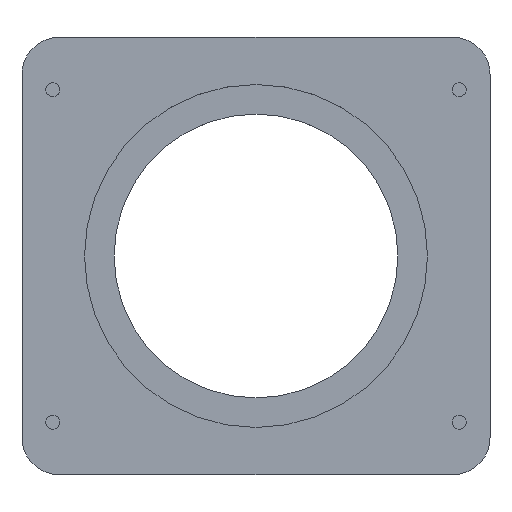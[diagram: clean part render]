
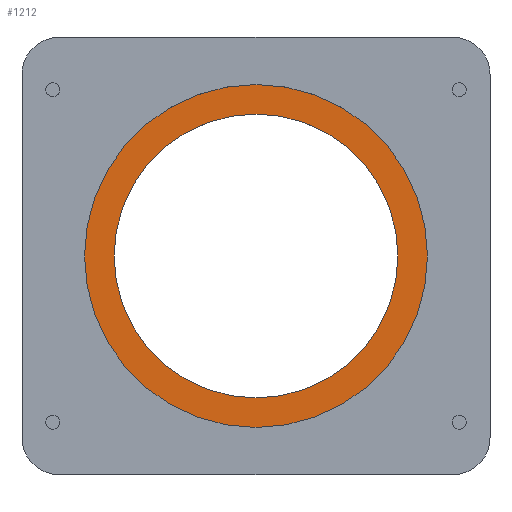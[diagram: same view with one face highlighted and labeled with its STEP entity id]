
A CAD part, top view. The second image highlights one B-rep face of the part: STEP entity #1212.
In plain terms, the highlighted planar face has unit normal (0, 0, 1).
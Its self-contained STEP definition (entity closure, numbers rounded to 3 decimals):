
#357 = CYLINDRICAL_SURFACE('',#358,23.05);
#358 = AXIS2_PLACEMENT_3D('',#359,#360,#361);
#359 = CARTESIAN_POINT('',(0.,0.,-0.1));
#360 = DIRECTION('',(-0.,-0.,-1.));
#361 = DIRECTION('',(1.,0.,0.));
#687 = CYLINDRICAL_SURFACE('',#688,27.85);
#688 = AXIS2_PLACEMENT_3D('',#689,#690,#691);
#689 = CARTESIAN_POINT('',(0.,0.,2.4));
#690 = DIRECTION('',(-0.,-0.,-1.));
#691 = DIRECTION('',(1.,0.,0.));
#888 = VERTEX_POINT('',#889);
#889 = CARTESIAN_POINT('',(23.05,0.,2.4));
#912 = EDGE_CURVE('',#888,#888,#913,.T.);
#913 = SURFACE_CURVE('',#914,(#919,#926),.PCURVE_S1.);
#914 = CIRCLE('',#915,23.05);
#915 = AXIS2_PLACEMENT_3D('',#916,#917,#918);
#916 = CARTESIAN_POINT('',(0.,0.,2.4));
#917 = DIRECTION('',(0.,0.,-1.));
#918 = DIRECTION('',(1.,0.,0.));
#919 = PCURVE('',#357,#920);
#920 = DEFINITIONAL_REPRESENTATION('',(#921),#925);
#921 = LINE('',#922,#923);
#922 = CARTESIAN_POINT('',(-6.283,-2.5));
#923 = VECTOR('',#924,1.);
#924 = DIRECTION('',(1.,-0.));
#925 = ( GEOMETRIC_REPRESENTATION_CONTEXT(2) 
PARAMETRIC_REPRESENTATION_CONTEXT() REPRESENTATION_CONTEXT('2D SPACE',''
  ) );
#926 = PCURVE('',#927,#932);
#927 = PLANE('',#928);
#928 = AXIS2_PLACEMENT_3D('',#929,#930,#931);
#929 = CARTESIAN_POINT('',(0.,0.,2.4));
#930 = DIRECTION('',(0.,0.,1.));
#931 = DIRECTION('',(1.,0.,-0.));
#932 = DEFINITIONAL_REPRESENTATION('',(#933),#941);
#933 = ( BOUNDED_CURVE() B_SPLINE_CURVE(2,(#934,#935,#936,#937,#938,#939
,#940),.UNSPECIFIED.,.T.,.F.) B_SPLINE_CURVE_WITH_KNOTS((1,2,2,2,2,1),(
    -2.094,0.,2.094,4.189,6.283,
8.378),.UNSPECIFIED.) CURVE() GEOMETRIC_REPRESENTATION_ITEM() 
RATIONAL_B_SPLINE_CURVE((1.,0.5,1.,0.5,1.,0.5,1.)) REPRESENTATION_ITEM(
  '') );
#934 = CARTESIAN_POINT('',(23.05,0.));
#935 = CARTESIAN_POINT('',(23.05,-39.924));
#936 = CARTESIAN_POINT('',(-11.525,-19.962));
#937 = CARTESIAN_POINT('',(-46.1,0.));
#938 = CARTESIAN_POINT('',(-11.525,19.962));
#939 = CARTESIAN_POINT('',(23.05,39.924));
#940 = CARTESIAN_POINT('',(23.05,0.));
#941 = ( GEOMETRIC_REPRESENTATION_CONTEXT(2) 
PARAMETRIC_REPRESENTATION_CONTEXT() REPRESENTATION_CONTEXT('2D SPACE',''
  ) );
#1056 = EDGE_CURVE('',#1057,#1057,#1059,.T.);
#1057 = VERTEX_POINT('',#1058);
#1058 = CARTESIAN_POINT('',(27.85,0.,2.4));
#1059 = SURFACE_CURVE('',#1060,(#1065,#1072),.PCURVE_S1.);
#1060 = CIRCLE('',#1061,27.85);
#1061 = AXIS2_PLACEMENT_3D('',#1062,#1063,#1064);
#1062 = CARTESIAN_POINT('',(0.,0.,2.4));
#1063 = DIRECTION('',(0.,0.,1.));
#1064 = DIRECTION('',(1.,0.,0.));
#1065 = PCURVE('',#687,#1066);
#1066 = DEFINITIONAL_REPRESENTATION('',(#1067),#1071);
#1067 = LINE('',#1068,#1069);
#1068 = CARTESIAN_POINT('',(-0.,0.));
#1069 = VECTOR('',#1070,1.);
#1070 = DIRECTION('',(-1.,0.));
#1071 = ( GEOMETRIC_REPRESENTATION_CONTEXT(2) 
PARAMETRIC_REPRESENTATION_CONTEXT() REPRESENTATION_CONTEXT('2D SPACE',''
  ) );
#1072 = PCURVE('',#927,#1073);
#1073 = DEFINITIONAL_REPRESENTATION('',(#1074),#1078);
#1074 = CIRCLE('',#1075,27.85);
#1075 = AXIS2_PLACEMENT_2D('',#1076,#1077);
#1076 = CARTESIAN_POINT('',(0.,0.));
#1077 = DIRECTION('',(1.,0.));
#1078 = ( GEOMETRIC_REPRESENTATION_CONTEXT(2) 
PARAMETRIC_REPRESENTATION_CONTEXT() REPRESENTATION_CONTEXT('2D SPACE',''
  ) );
#1212 = ADVANCED_FACE('',(#1213,#1216),#927,.T.);
#1213 = FACE_BOUND('',#1214,.T.);
#1214 = EDGE_LOOP('',(#1215));
#1215 = ORIENTED_EDGE('',*,*,#1056,.T.);
#1216 = FACE_BOUND('',#1217,.T.);
#1217 = EDGE_LOOP('',(#1218));
#1218 = ORIENTED_EDGE('',*,*,#912,.T.);
